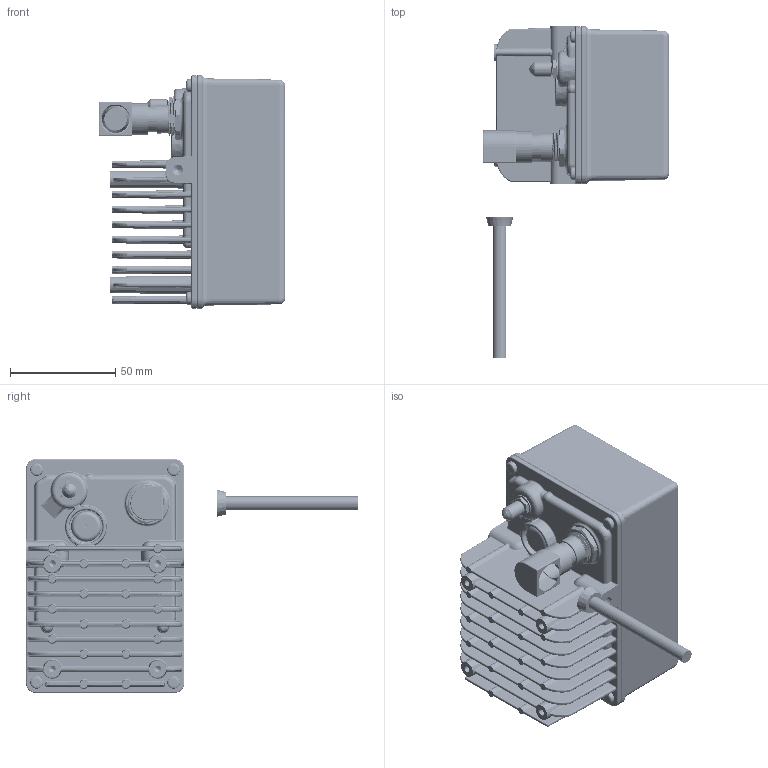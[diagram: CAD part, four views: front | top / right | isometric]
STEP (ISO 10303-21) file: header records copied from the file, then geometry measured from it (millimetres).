
FILE_DESCRIPTION(/* description */ (''),/* implementation_level */ '2;1');
FILE_NAME(/* name */ '10000443_ETR_B.stp',/* time_stamp */ '2023-03-09T09:45:35+01:00',/* author */ ('Menz'),/* organization */ (''),/* preprocessor_version */ 'ST-DEVELOPER v19.2',/* originating_system */ 'Autodesk Inventor 2023',/* authorisation */ '');
FILE_SCHEMA (('AUTOMOTIVE_DESIGN { 1 0 10303 214 3 1 1 }'));
Products named in the file (1): 10000443_simplified
Bounding box: 88.5 x 157.5 x 111 mm (x, y, z)
Volume: 427383.2 mm3; surface area: 121297.4 mm2
Topology: 12 solids, 12 shells, 2454 faces, 6227 edges, 3718 vertices
Faces by surface type: cylinder 817, bspline 680, plane 380, torus 208, cone 201, sphere 168
Full cylindrical faces by diameter (mm): 0.9 x1, 3 x28, 3.242 x4, 4.7 x1, 4.978 x2, 5.3 x1, 6 x4, 6.5 x3, 6.9 x1, 7.3 x1, 8.25 x1, 8.5 x1, 9.8 x1, 10.2 x1, 10.5 x1, 10.517 x5, 10.8 x1, 10.9 x1, 12 x1, 12.425 x1, 13 x1, 13.5 x1, 14.4 x1, 15 x1, 20 x1
Entity records: 141525 total; most frequent: CARTESIAN_POINT 84196, ORIENTED_EDGE 12232, DIRECTION 10523, EDGE_CURVE 6116, AXIS2_PLACEMENT_3D 4450, VERTEX_POINT 3718, EDGE_LOOP 2528, CIRCLE 2485
